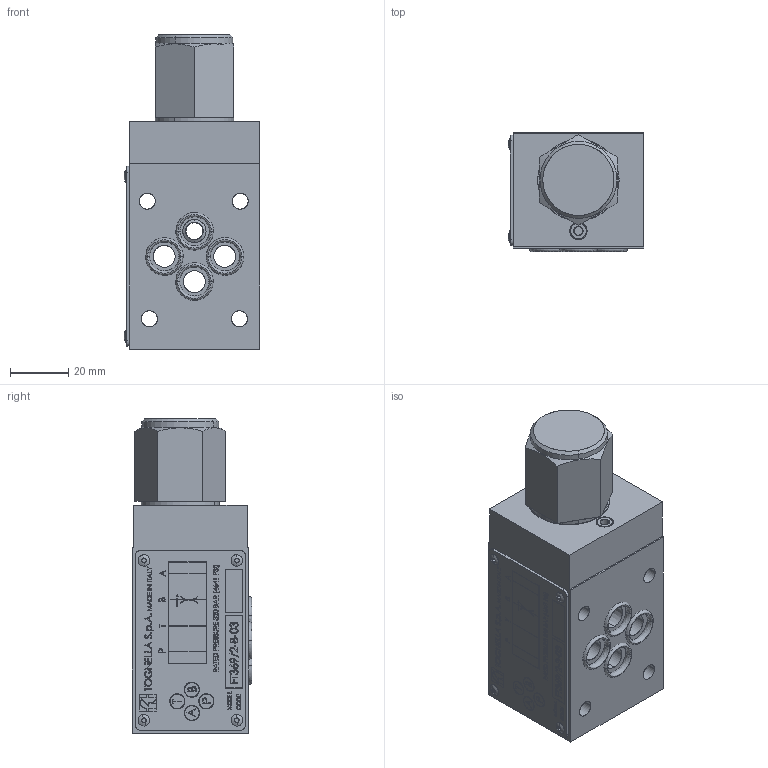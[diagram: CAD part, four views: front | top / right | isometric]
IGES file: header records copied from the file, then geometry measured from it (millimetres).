
Start section: SolidWorks IGES file using analytic representation for surfaces
Global section: file name: C:\Users\pc-te25\Desktop\369-2-B-03.IGS; native system: SolidWorks 2018; preprocessor: SolidWorks 2018; author: pc-te25; date: 191203.143006; units: millimetre
Bounding box: 46.66 x 41.1 x 108.3 mm (x, y, z)
Surface area: 29416.3 mm2 (no closed solid volume)
Topology: 0 solids, 0 shells, 741 faces, 13599 edges, 13599 vertices
Faces by surface type: bspline 639, revolution 102
